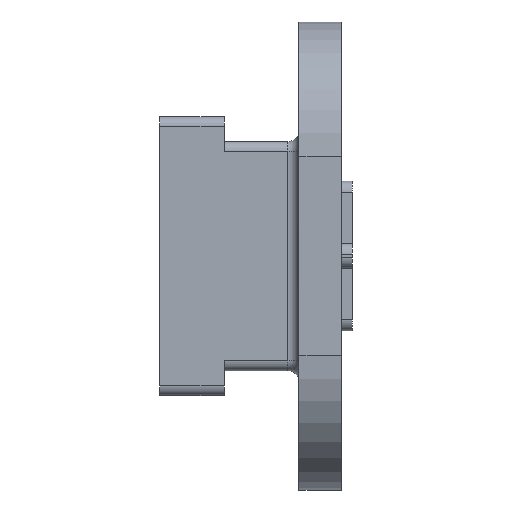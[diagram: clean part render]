
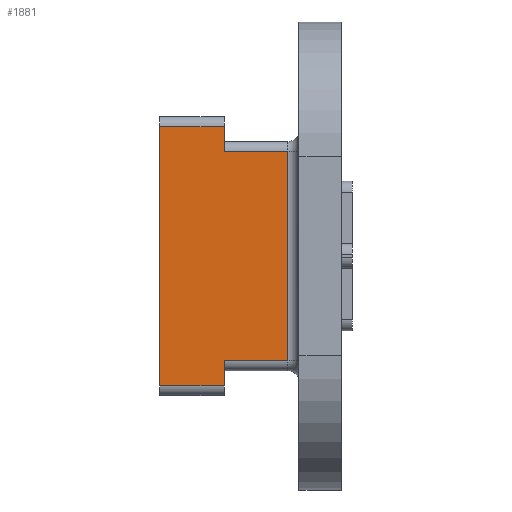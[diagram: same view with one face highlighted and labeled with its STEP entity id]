
A CAD part, top view. The second image highlights one B-rep face of the part: STEP entity #1881.
In plain terms, the highlighted planar face has unit normal (0, 0, 1).
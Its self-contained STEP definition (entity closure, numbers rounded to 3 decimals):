
#128 = PLANE('',#129);
#129 = AXIS2_PLACEMENT_3D('',#130,#131,#132);
#130 = CARTESIAN_POINT('',(36.3,17.4,-17.));
#131 = DIRECTION('',(1.,0.,-0.));
#132 = DIRECTION('',(0.,0.,1.));
#184 = PLANE('',#185);
#185 = AXIS2_PLACEMENT_3D('',#186,#187,#188);
#186 = CARTESIAN_POINT('',(33.7,17.4,-17.));
#187 = DIRECTION('',(1.,0.,-0.));
#188 = DIRECTION('',(0.,0.,1.));
#238 = PLANE('',#239);
#239 = AXIS2_PLACEMENT_3D('',#240,#241,#242);
#240 = CARTESIAN_POINT('',(36.3,17.4,-17.));
#241 = DIRECTION('',(1.,0.,-0.));
#242 = DIRECTION('',(0.,0.,1.));
#493 = VERTEX_POINT('',#494);
#494 = CARTESIAN_POINT('',(36.3,18.8,-15.));
#513 = CYLINDRICAL_SURFACE('',#514,0.4);
#514 = AXIS2_PLACEMENT_3D('',#515,#516,#517);
#515 = CARTESIAN_POINT('',(36.3,18.8,-15.4));
#516 = DIRECTION('',(1.,0.,-0.));
#517 = DIRECTION('',(0.,-1.,0.));
#525 = EDGE_CURVE('',#526,#493,#528,.T.);
#526 = VERTEX_POINT('',#527);
#527 = CARTESIAN_POINT('',(36.3,17.8,-15.));
#528 = SURFACE_CURVE('',#529,(#533,#540),.PCURVE_S1.);
#529 = LINE('',#530,#531);
#530 = CARTESIAN_POINT('',(36.3,17.4,-15.));
#531 = VECTOR('',#532,1.);
#532 = DIRECTION('',(-0.,1.,0.));
#533 = PCURVE('',#238,#534);
#534 = DEFINITIONAL_REPRESENTATION('',(#535),#539);
#535 = LINE('',#536,#537);
#536 = CARTESIAN_POINT('',(2.,0.));
#537 = VECTOR('',#538,1.);
#538 = DIRECTION('',(0.,-1.));
#539 = ( GEOMETRIC_REPRESENTATION_CONTEXT(2) 
PARAMETRIC_REPRESENTATION_CONTEXT() REPRESENTATION_CONTEXT('2D SPACE',''
  ) );
#540 = PCURVE('',#541,#546);
#541 = PLANE('',#542);
#542 = AXIS2_PLACEMENT_3D('',#543,#544,#545);
#543 = CARTESIAN_POINT('',(33.7,17.4,-15.));
#544 = DIRECTION('',(0.,0.,1.));
#545 = DIRECTION('',(1.,0.,-0.));
#546 = DEFINITIONAL_REPRESENTATION('',(#547),#551);
#547 = LINE('',#548,#549);
#548 = CARTESIAN_POINT('',(2.6,0.));
#549 = VECTOR('',#550,1.);
#550 = DIRECTION('',(0.,1.));
#551 = ( GEOMETRIC_REPRESENTATION_CONTEXT(2) 
PARAMETRIC_REPRESENTATION_CONTEXT() REPRESENTATION_CONTEXT('2D SPACE',''
  ) );
#572 = CYLINDRICAL_SURFACE('',#573,0.4);
#573 = AXIS2_PLACEMENT_3D('',#574,#575,#576);
#574 = CARTESIAN_POINT('',(33.7,17.8,-15.4));
#575 = DIRECTION('',(1.,0.,-0.));
#576 = DIRECTION('',(0.,-1.,0.));
#778 = VERTEX_POINT('',#779);
#779 = CARTESIAN_POINT('',(36.3,28.2,-15.));
#794 = CYLINDRICAL_SURFACE('',#795,0.4);
#795 = AXIS2_PLACEMENT_3D('',#796,#797,#798);
#796 = CARTESIAN_POINT('',(33.7,28.2,-15.4));
#797 = DIRECTION('',(1.,0.,-0.));
#798 = DIRECTION('',(0.,1.,0.));
#806 = EDGE_CURVE('',#807,#778,#809,.T.);
#807 = VERTEX_POINT('',#808);
#808 = CARTESIAN_POINT('',(36.3,27.2,-15.));
#809 = SURFACE_CURVE('',#810,(#814,#821),.PCURVE_S1.);
#810 = LINE('',#811,#812);
#811 = CARTESIAN_POINT('',(36.3,17.4,-15.));
#812 = VECTOR('',#813,1.);
#813 = DIRECTION('',(-0.,1.,0.));
#814 = PCURVE('',#128,#815);
#815 = DEFINITIONAL_REPRESENTATION('',(#816),#820);
#816 = LINE('',#817,#818);
#817 = CARTESIAN_POINT('',(2.,0.));
#818 = VECTOR('',#819,1.);
#819 = DIRECTION('',(0.,-1.));
#820 = ( GEOMETRIC_REPRESENTATION_CONTEXT(2) 
PARAMETRIC_REPRESENTATION_CONTEXT() REPRESENTATION_CONTEXT('2D SPACE',''
  ) );
#821 = PCURVE('',#541,#822);
#822 = DEFINITIONAL_REPRESENTATION('',(#823),#827);
#823 = LINE('',#824,#825);
#824 = CARTESIAN_POINT('',(2.6,0.));
#825 = VECTOR('',#826,1.);
#826 = DIRECTION('',(0.,1.));
#827 = ( GEOMETRIC_REPRESENTATION_CONTEXT(2) 
PARAMETRIC_REPRESENTATION_CONTEXT() REPRESENTATION_CONTEXT('2D SPACE',''
  ) );
#846 = CYLINDRICAL_SURFACE('',#847,0.4);
#847 = AXIS2_PLACEMENT_3D('',#848,#849,#850);
#848 = CARTESIAN_POINT('',(36.3,27.2,-15.4));
#849 = DIRECTION('',(1.,0.,-0.));
#850 = DIRECTION('',(0.,1.,0.));
#959 = VERTEX_POINT('',#960);
#960 = CARTESIAN_POINT('',(33.7,28.2,-15.));
#982 = EDGE_CURVE('',#983,#959,#985,.T.);
#983 = VERTEX_POINT('',#984);
#984 = CARTESIAN_POINT('',(33.7,17.8,-15.));
#985 = SURFACE_CURVE('',#986,(#990,#997),.PCURVE_S1.);
#986 = LINE('',#987,#988);
#987 = CARTESIAN_POINT('',(33.7,17.4,-15.));
#988 = VECTOR('',#989,1.);
#989 = DIRECTION('',(-0.,1.,0.));
#990 = PCURVE('',#184,#991);
#991 = DEFINITIONAL_REPRESENTATION('',(#992),#996);
#992 = LINE('',#993,#994);
#993 = CARTESIAN_POINT('',(2.,0.));
#994 = VECTOR('',#995,1.);
#995 = DIRECTION('',(0.,-1.));
#996 = ( GEOMETRIC_REPRESENTATION_CONTEXT(2) 
PARAMETRIC_REPRESENTATION_CONTEXT() REPRESENTATION_CONTEXT('2D SPACE',''
  ) );
#997 = PCURVE('',#541,#998);
#998 = DEFINITIONAL_REPRESENTATION('',(#999),#1003);
#999 = LINE('',#1000,#1001);
#1000 = CARTESIAN_POINT('',(0.,0.));
#1001 = VECTOR('',#1002,1.);
#1002 = DIRECTION('',(0.,1.));
#1003 = ( GEOMETRIC_REPRESENTATION_CONTEXT(2) 
PARAMETRIC_REPRESENTATION_CONTEXT() REPRESENTATION_CONTEXT('2D SPACE',''
  ) );
#1274 = CYLINDRICAL_SURFACE('',#1275,0.45);
#1275 = AXIS2_PLACEMENT_3D('',#1276,#1277,#1278);
#1276 = CARTESIAN_POINT('',(38.85,27.2,-14.55));
#1277 = DIRECTION('',(-0.,-1.,0.));
#1278 = DIRECTION('',(-0.,0.,-1.));
#1860 = EDGE_CURVE('',#983,#526,#1861,.T.);
#1861 = SURFACE_CURVE('',#1862,(#1866,#1873),.PCURVE_S1.);
#1862 = LINE('',#1863,#1864);
#1863 = CARTESIAN_POINT('',(33.7,17.8,-15.));
#1864 = VECTOR('',#1865,1.);
#1865 = DIRECTION('',(1.,0.,-0.));
#1866 = PCURVE('',#572,#1867);
#1867 = DEFINITIONAL_REPRESENTATION('',(#1868),#1872);
#1868 = LINE('',#1869,#1870);
#1869 = CARTESIAN_POINT('',(4.712,0.));
#1870 = VECTOR('',#1871,1.);
#1871 = DIRECTION('',(-0.,1.));
#1872 = ( GEOMETRIC_REPRESENTATION_CONTEXT(2) 
PARAMETRIC_REPRESENTATION_CONTEXT() REPRESENTATION_CONTEXT('2D SPACE',''
  ) );
#1873 = PCURVE('',#541,#1874);
#1874 = DEFINITIONAL_REPRESENTATION('',(#1875),#1879);
#1875 = LINE('',#1876,#1877);
#1876 = CARTESIAN_POINT('',(0.,0.4));
#1877 = VECTOR('',#1878,1.);
#1878 = DIRECTION('',(1.,0.));
#1879 = ( GEOMETRIC_REPRESENTATION_CONTEXT(2) 
PARAMETRIC_REPRESENTATION_CONTEXT() REPRESENTATION_CONTEXT('2D SPACE',''
  ) );
#1881 = ADVANCED_FACE('',(#1882),#541,.T.);
#1882 = FACE_BOUND('',#1883,.T.);
#1883 = EDGE_LOOP('',(#1884,#1907,#1930,#1951,#1952,#1973,#1974,#1975));
#1884 = ORIENTED_EDGE('',*,*,#1885,.T.);
#1885 = EDGE_CURVE('',#493,#1886,#1888,.T.);
#1886 = VERTEX_POINT('',#1887);
#1887 = CARTESIAN_POINT('',(38.85,18.8,-15.));
#1888 = SURFACE_CURVE('',#1889,(#1893,#1900),.PCURVE_S1.);
#1889 = LINE('',#1890,#1891);
#1890 = CARTESIAN_POINT('',(36.3,18.8,-15.));
#1891 = VECTOR('',#1892,1.);
#1892 = DIRECTION('',(1.,0.,-0.));
#1893 = PCURVE('',#541,#1894);
#1894 = DEFINITIONAL_REPRESENTATION('',(#1895),#1899);
#1895 = LINE('',#1896,#1897);
#1896 = CARTESIAN_POINT('',(2.6,1.4));
#1897 = VECTOR('',#1898,1.);
#1898 = DIRECTION('',(1.,0.));
#1899 = ( GEOMETRIC_REPRESENTATION_CONTEXT(2) 
PARAMETRIC_REPRESENTATION_CONTEXT() REPRESENTATION_CONTEXT('2D SPACE',''
  ) );
#1900 = PCURVE('',#513,#1901);
#1901 = DEFINITIONAL_REPRESENTATION('',(#1902),#1906);
#1902 = LINE('',#1903,#1904);
#1903 = CARTESIAN_POINT('',(4.712,0.));
#1904 = VECTOR('',#1905,1.);
#1905 = DIRECTION('',(-0.,1.));
#1906 = ( GEOMETRIC_REPRESENTATION_CONTEXT(2) 
PARAMETRIC_REPRESENTATION_CONTEXT() REPRESENTATION_CONTEXT('2D SPACE',''
  ) );
#1907 = ORIENTED_EDGE('',*,*,#1908,.F.);
#1908 = EDGE_CURVE('',#1909,#1886,#1911,.T.);
#1909 = VERTEX_POINT('',#1910);
#1910 = CARTESIAN_POINT('',(38.85,27.2,-15.));
#1911 = SURFACE_CURVE('',#1912,(#1916,#1923),.PCURVE_S1.);
#1912 = LINE('',#1913,#1914);
#1913 = CARTESIAN_POINT('',(38.85,27.2,-15.));
#1914 = VECTOR('',#1915,1.);
#1915 = DIRECTION('',(-0.,-1.,0.));
#1916 = PCURVE('',#541,#1917);
#1917 = DEFINITIONAL_REPRESENTATION('',(#1918),#1922);
#1918 = LINE('',#1919,#1920);
#1919 = CARTESIAN_POINT('',(5.15,9.8));
#1920 = VECTOR('',#1921,1.);
#1921 = DIRECTION('',(-0.,-1.));
#1922 = ( GEOMETRIC_REPRESENTATION_CONTEXT(2) 
PARAMETRIC_REPRESENTATION_CONTEXT() REPRESENTATION_CONTEXT('2D SPACE',''
  ) );
#1923 = PCURVE('',#1274,#1924);
#1924 = DEFINITIONAL_REPRESENTATION('',(#1925),#1929);
#1925 = LINE('',#1926,#1927);
#1926 = CARTESIAN_POINT('',(0.,0.));
#1927 = VECTOR('',#1928,1.);
#1928 = DIRECTION('',(0.,1.));
#1929 = ( GEOMETRIC_REPRESENTATION_CONTEXT(2) 
PARAMETRIC_REPRESENTATION_CONTEXT() REPRESENTATION_CONTEXT('2D SPACE',''
  ) );
#1930 = ORIENTED_EDGE('',*,*,#1931,.F.);
#1931 = EDGE_CURVE('',#807,#1909,#1932,.T.);
#1932 = SURFACE_CURVE('',#1933,(#1937,#1944),.PCURVE_S1.);
#1933 = LINE('',#1934,#1935);
#1934 = CARTESIAN_POINT('',(36.3,27.2,-15.));
#1935 = VECTOR('',#1936,1.);
#1936 = DIRECTION('',(1.,0.,-0.));
#1937 = PCURVE('',#541,#1938);
#1938 = DEFINITIONAL_REPRESENTATION('',(#1939),#1943);
#1939 = LINE('',#1940,#1941);
#1940 = CARTESIAN_POINT('',(2.6,9.8));
#1941 = VECTOR('',#1942,1.);
#1942 = DIRECTION('',(1.,0.));
#1943 = ( GEOMETRIC_REPRESENTATION_CONTEXT(2) 
PARAMETRIC_REPRESENTATION_CONTEXT() REPRESENTATION_CONTEXT('2D SPACE',''
  ) );
#1944 = PCURVE('',#846,#1945);
#1945 = DEFINITIONAL_REPRESENTATION('',(#1946),#1950);
#1946 = LINE('',#1947,#1948);
#1947 = CARTESIAN_POINT('',(1.571,0.));
#1948 = VECTOR('',#1949,1.);
#1949 = DIRECTION('',(0.,1.));
#1950 = ( GEOMETRIC_REPRESENTATION_CONTEXT(2) 
PARAMETRIC_REPRESENTATION_CONTEXT() REPRESENTATION_CONTEXT('2D SPACE',''
  ) );
#1951 = ORIENTED_EDGE('',*,*,#806,.T.);
#1952 = ORIENTED_EDGE('',*,*,#1953,.F.);
#1953 = EDGE_CURVE('',#959,#778,#1954,.T.);
#1954 = SURFACE_CURVE('',#1955,(#1959,#1966),.PCURVE_S1.);
#1955 = LINE('',#1956,#1957);
#1956 = CARTESIAN_POINT('',(33.7,28.2,-15.));
#1957 = VECTOR('',#1958,1.);
#1958 = DIRECTION('',(1.,0.,-0.));
#1959 = PCURVE('',#541,#1960);
#1960 = DEFINITIONAL_REPRESENTATION('',(#1961),#1965);
#1961 = LINE('',#1962,#1963);
#1962 = CARTESIAN_POINT('',(0.,10.8));
#1963 = VECTOR('',#1964,1.);
#1964 = DIRECTION('',(1.,0.));
#1965 = ( GEOMETRIC_REPRESENTATION_CONTEXT(2) 
PARAMETRIC_REPRESENTATION_CONTEXT() REPRESENTATION_CONTEXT('2D SPACE',''
  ) );
#1966 = PCURVE('',#794,#1967);
#1967 = DEFINITIONAL_REPRESENTATION('',(#1968),#1972);
#1968 = LINE('',#1969,#1970);
#1969 = CARTESIAN_POINT('',(1.571,0.));
#1970 = VECTOR('',#1971,1.);
#1971 = DIRECTION('',(0.,1.));
#1972 = ( GEOMETRIC_REPRESENTATION_CONTEXT(2) 
PARAMETRIC_REPRESENTATION_CONTEXT() REPRESENTATION_CONTEXT('2D SPACE',''
  ) );
#1973 = ORIENTED_EDGE('',*,*,#982,.F.);
#1974 = ORIENTED_EDGE('',*,*,#1860,.T.);
#1975 = ORIENTED_EDGE('',*,*,#525,.T.);
